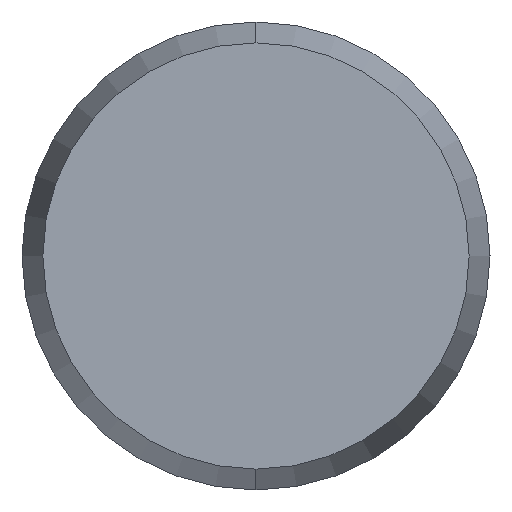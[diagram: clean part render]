
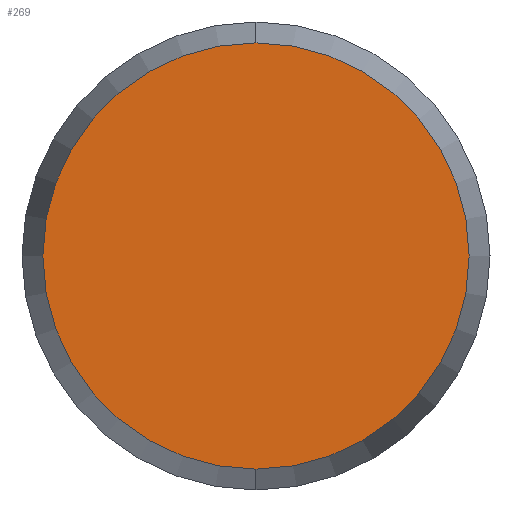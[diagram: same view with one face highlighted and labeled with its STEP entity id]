
A CAD part, left-side view. The second image highlights one B-rep face of the part: STEP entity #269.
In plain terms, the highlighted planar face has unit normal (-1, 0, 0).
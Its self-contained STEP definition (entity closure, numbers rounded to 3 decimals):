
#108 = DIRECTION ( 'NONE',  ( 0., 0., -1. ) ) ;
#109 = DIRECTION ( 'NONE',  ( 1., 0., 0. ) ) ;
#110 = CARTESIAN_POINT ( 'NONE',  ( -16., 0., 0. ) ) ;
#111 = AXIS2_PLACEMENT_3D ( 'NONE', #110, #109, #108 ) ;
#115 = CIRCLE ( 'NONE', #111, 1.366 ) ;
#143 = DIRECTION ( 'NONE',  ( 0., 0., -1. ) ) ;
#144 = DIRECTION ( 'NONE',  ( 1., 0., 0. ) ) ;
#145 = CARTESIAN_POINT ( 'NONE',  ( -16., 0., 0. ) ) ;
#146 = AXIS2_PLACEMENT_3D ( 'NONE', #145, #144, #143 ) ;
#147 = PLANE ( 'NONE',  #146 ) ;
#151 = FACE_OUTER_BOUND ( 'NONE', #260, .T. ) ;
#185 = CARTESIAN_POINT ( 'NONE',  ( -16., 0., -1.366 ) ) ;
#186 = CARTESIAN_POINT ( 'NONE',  ( -16., 0., 1.366 ) ) ;
#187 = DIRECTION ( 'NONE',  ( 0., 0., -1. ) ) ;
#188 = DIRECTION ( 'NONE',  ( 1., 0., 0. ) ) ;
#189 = CARTESIAN_POINT ( 'NONE',  ( -16., 0., 0. ) ) ;
#190 = AXIS2_PLACEMENT_3D ( 'NONE', #189, #188, #187 ) ;
#191 = CIRCLE ( 'NONE', #190, 1.366 ) ;
#204 = ORIENTED_EDGE ( 'NONE', *, *, #233, .F. ) ;
#205 = ORIENTED_EDGE ( 'NONE', *, *, #240, .F. ) ;
#233 = EDGE_CURVE ( 'NONE', #242, #241, #115, .T. ) ;
#240 = EDGE_CURVE ( 'NONE', #241, #242, #191, .T. ) ;
#241 = VERTEX_POINT ( 'NONE', #186 ) ;
#242 = VERTEX_POINT ( 'NONE', #185 ) ;
#260 = EDGE_LOOP ( 'NONE', ( #205, #204 ) ) ;
#269 = ADVANCED_FACE ( 'NONE', ( #151 ), #147, .F. ) ;
